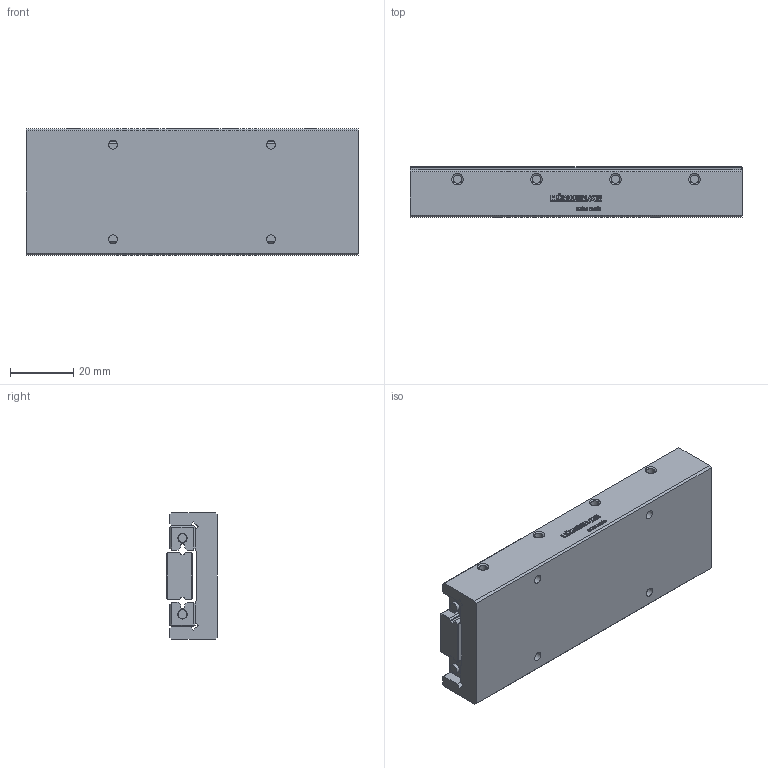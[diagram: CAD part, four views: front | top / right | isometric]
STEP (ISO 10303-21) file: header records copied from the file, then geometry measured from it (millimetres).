
FILE_DESCRIPTION(/* description */ ('STEP AP214'),/* implementation_level */ '2;1');
FILE_NAME(/* name */ 'ND 3-105.60(0)',/* time_stamp */ '2025-04-22T17:44:39+02:00',/* author */ ('License CC BY-ND 4.0'),/* organization */ ('CADENAS'),/* preprocessor_version */ 'ST-DEVELOPER v19.3',/* originating_system */ 'PARTsolutions',/* authorisation */ ' ');
FILE_SCHEMA (('AUTOMOTIVE_DESIGN {1 0 10303 214 3 1 1}'));
Length unit declared in the file: millimetre
Products named in the file (4): ND 3-105.60(0); ND 3-105.60+SQ+OF_(0)_1; ND 3-105.60+SQ+OF_(0)_2; ND 3-105.60+SQ+OF_(0)_3
Assembly tree (4 placements, depth 2):
  ND 3-105.60(0)
    ND 3-105.60+SQ+OF_(0)_1
    ND 3-105.60+SQ+OF_(0)_2
    ND 3-105.60+SQ+OF_(0)_3  x2
Bounding box: 105 x 16 x 40 mm (x, y, z)
Volume: 56759.9 mm3; surface area: 27448.2 mm2
Topology: 4 solids, 4 shells, 649 faces, 1778 edges, 1176 vertices
Faces by surface type: cylinder 326, plane 295, cone 24, torus 4
Full cylindrical faces by diameter (mm): 1.49 x4, 2.611 x4, 2.85 x4, 3 x8, 5.6 x8, 6.647 x4
Entity records: 19379 total; most frequent: DIRECTION 3500, CARTESIAN_POINT 3332, ORIENTED_EDGE 3248, EDGE_CURVE 1624, AXIS2_PLACEMENT_3D 1270, VERTEX_POINT 1102, LINE 960, VECTOR 960
